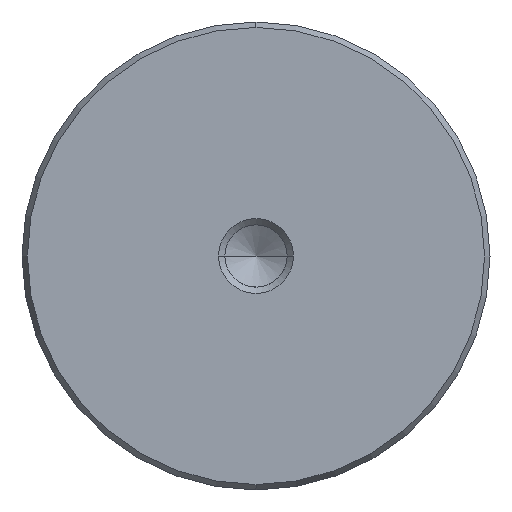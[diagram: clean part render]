
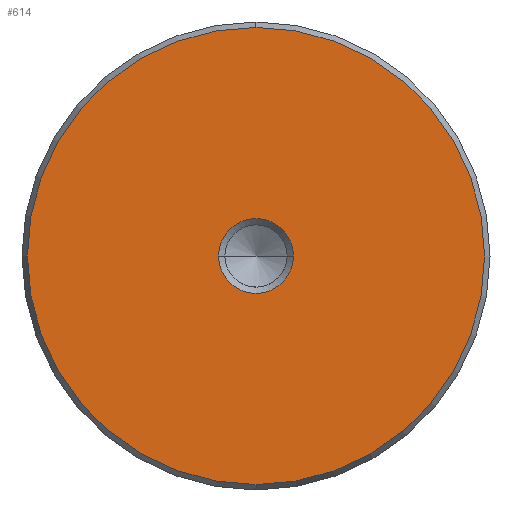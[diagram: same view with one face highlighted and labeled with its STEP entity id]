
A CAD part, left-side view. The second image highlights one B-rep face of the part: STEP entity #614.
In plain terms, the highlighted planar face has unit normal (-1, 0, 0).
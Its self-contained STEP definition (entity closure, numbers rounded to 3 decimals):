
#528=CARTESIAN_POINT('Vertex',(0.,0.,-24.423)) ;
#531=CARTESIAN_POINT('Axis2P3D Location',(0.,0.,0.)) ;
#535=CARTESIAN_POINT('Vertex',(0.,24.423,0.)) ;
#538=CARTESIAN_POINT('Axis2P3D Location',(0.,0.,0.)) ;
#542=CARTESIAN_POINT('Vertex',(0.,0.,24.423)) ;
#564=CARTESIAN_POINT('Axis2P3D Location',(0.,0.,0.)) ;
#568=CARTESIAN_POINT('Vertex',(0.,-24.423,0.)) ;
#571=CARTESIAN_POINT('Axis2P3D Location',(0.,0.,0.)) ;
#585=CARTESIAN_POINT('Axis2P3D Location',(0.,0.,0.)) ;
#596=CARTESIAN_POINT('Axis2P3D Location',(0.,0.,0.)) ;
#600=CARTESIAN_POINT('Vertex',(0.,4.,0.)) ;
#602=CARTESIAN_POINT('Vertex',(0.,-4.,0.)) ;
#605=CARTESIAN_POINT('Axis2P3D Location',(0.,0.,0.)) ;
#532=DIRECTION('Axis2P3D Direction',(1.,0.,-0.)) ;
#539=DIRECTION('Axis2P3D Direction',(1.,0.,-0.)) ;
#565=DIRECTION('Axis2P3D Direction',(1.,0.,-0.)) ;
#572=DIRECTION('Axis2P3D Direction',(1.,0.,-0.)) ;
#586=DIRECTION('Axis2P3D Direction',(1.,0.,-0.)) ;
#587=DIRECTION('Axis2P3D XDirection',(-0.,0.,-1.)) ;
#597=DIRECTION('Axis2P3D Direction',(1.,0.,-0.)) ;
#606=DIRECTION('Axis2P3D Direction',(1.,0.,-0.)) ;
#533=AXIS2_PLACEMENT_3D('Circle Axis2P3D',#531,#532,$) ;
#540=AXIS2_PLACEMENT_3D('Circle Axis2P3D',#538,#539,$) ;
#566=AXIS2_PLACEMENT_3D('Circle Axis2P3D',#564,#565,$) ;
#573=AXIS2_PLACEMENT_3D('Circle Axis2P3D',#571,#572,$) ;
#588=AXIS2_PLACEMENT_3D('Plane Axis2P3D',#585,#586,#587) ;
#598=AXIS2_PLACEMENT_3D('Circle Axis2P3D',#596,#597,$) ;
#607=AXIS2_PLACEMENT_3D('Circle Axis2P3D',#605,#606,$) ;
#591=ORIENTED_EDGE('',*,*,#537,.F.) ;
#592=ORIENTED_EDGE('',*,*,#575,.F.) ;
#593=ORIENTED_EDGE('',*,*,#570,.F.) ;
#594=ORIENTED_EDGE('',*,*,#544,.F.) ;
#611=ORIENTED_EDGE('',*,*,#604,.T.) ;
#612=ORIENTED_EDGE('',*,*,#609,.T.) ;
#613=FACE_BOUND('',#610,.T.) ;
#614=ADVANCED_FACE('720-50x200',(#595,#613),#589,.F.) ;
#534=CIRCLE('generated circle',#533,24.423) ;
#541=CIRCLE('generated circle',#540,24.423) ;
#567=CIRCLE('generated circle',#566,24.423) ;
#574=CIRCLE('generated circle',#573,24.423) ;
#599=CIRCLE('generated circle',#598,4.) ;
#608=CIRCLE('generated circle',#607,4.) ;
#537=EDGE_CURVE('',#529,#536,#534,.T.) ;
#544=EDGE_CURVE('',#536,#543,#541,.T.) ;
#570=EDGE_CURVE('',#543,#569,#567,.T.) ;
#575=EDGE_CURVE('',#569,#529,#574,.T.) ;
#604=EDGE_CURVE('',#601,#603,#599,.T.) ;
#609=EDGE_CURVE('',#603,#601,#608,.T.) ;
#590=EDGE_LOOP('',(#591,#592,#593,#594)) ;
#610=EDGE_LOOP('',(#611,#612)) ;
#595=FACE_OUTER_BOUND('',#590,.T.) ;
#589=PLANE('Plane',#588) ;
#529=VERTEX_POINT('',#528) ;
#536=VERTEX_POINT('',#535) ;
#543=VERTEX_POINT('',#542) ;
#569=VERTEX_POINT('',#568) ;
#601=VERTEX_POINT('',#600) ;
#603=VERTEX_POINT('',#602) ;
